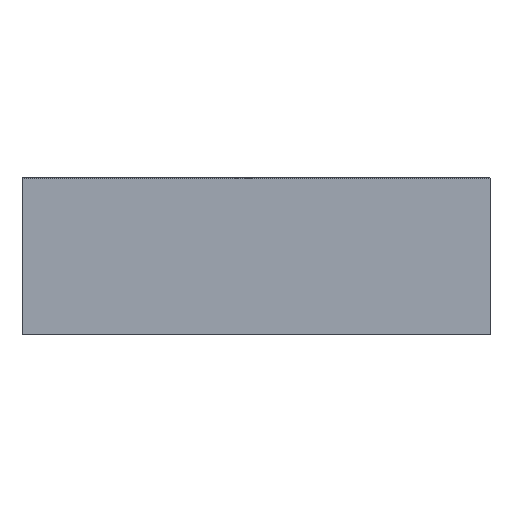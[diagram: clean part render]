
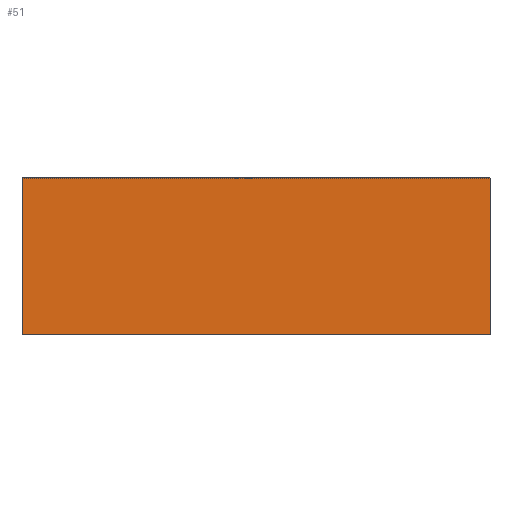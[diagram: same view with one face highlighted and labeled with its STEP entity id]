
A CAD part, left-side view. The second image highlights one B-rep face of the part: STEP entity #51.
In plain terms, the highlighted planar face has unit normal (-1, 0, 0).
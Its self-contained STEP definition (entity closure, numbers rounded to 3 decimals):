
#51=ADVANCED_FACE('',(#59),#60,.T.);
#59=FACE_OUTER_BOUND('',#72,.T.);
#60=PLANE('',#73);
#72=EDGE_LOOP('',(#85,#86,#87,#88));
#73=AXIS2_PLACEMENT_3D('',#89,#90,#91);
#85=ORIENTED_EDGE('',*,*,#128,.T.);
#86=ORIENTED_EDGE('',*,*,#129,.F.);
#87=ORIENTED_EDGE('',*,*,#130,.F.);
#88=ORIENTED_EDGE('',*,*,#131,.T.);
#89=CARTESIAN_POINT('',(1.,11.0,5.0));
#90=DIRECTION('',(-1.0,0.,0.));
#91=DIRECTION('',(0.,1.0,0.));
#128=EDGE_CURVE('',#140,#141,#142,.T.);
#129=EDGE_CURVE('',#143,#141,#144,.T.);
#130=EDGE_CURVE('',#145,#143,#146,.T.);
#131=EDGE_CURVE('',#145,#140,#147,.T.);
#140=VERTEX_POINT('',#160);
#141=VERTEX_POINT('',#161);
#142=LINE('',#162,#163);
#143=VERTEX_POINT('',#164);
#144=LINE('',#165,#166);
#145=VERTEX_POINT('',#167);
#146=LINE('',#168,#169);
#147=LINE('',#170,#171);
#160=CARTESIAN_POINT('',(1.,12.0,5.0));
#161=CARTESIAN_POINT('',(1.,12.0,1.));
#162=CARTESIAN_POINT('',(1.,12.0,5.0));
#163=VECTOR('',#192,1.0);
#164=CARTESIAN_POINT('',(1.,0.,1.));
#165=CARTESIAN_POINT('',(1.,10.75,1.0));
#166=VECTOR('',#193,1.0);
#167=CARTESIAN_POINT('',(1.,0.,5.0));
#168=CARTESIAN_POINT('',(1.,0.,2.75));
#169=VECTOR('',#194,1.0);
#170=CARTESIAN_POINT('',(1.,11.0,5.0));
#171=VECTOR('',#195,0.39);
#192=DIRECTION('',(0.,0.0,-1.0));
#193=DIRECTION('',(0.,1.0,0.));
#194=DIRECTION('',(0.,0.0,-1.0));
#195=DIRECTION('',(0.,1.0,0.));
